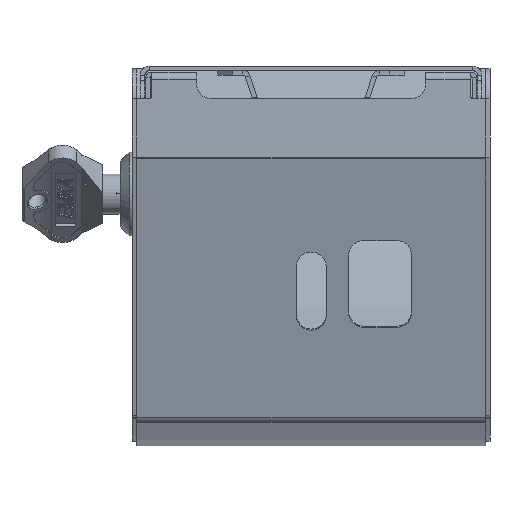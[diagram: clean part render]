
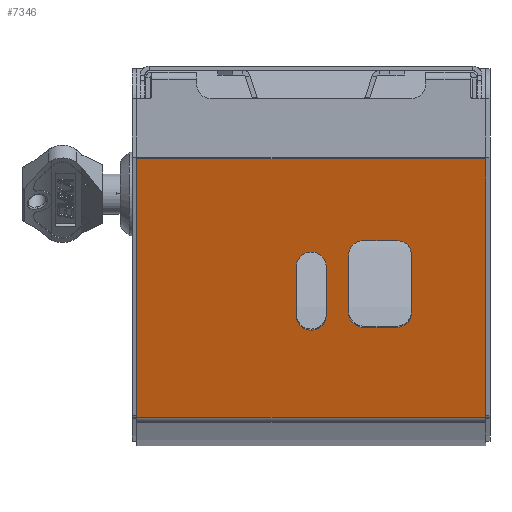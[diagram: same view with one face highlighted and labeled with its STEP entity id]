
A CAD part, front view. The second image highlights one B-rep face of the part: STEP entity #7346.
In plain terms, the highlighted planar face has unit normal (0, -0.966, -0.259) as drawn and (-0.259, -0.966, 0) by its records, which use the part's own axes.
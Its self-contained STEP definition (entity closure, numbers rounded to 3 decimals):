
#5118=CARTESIAN_POINT('',(-9.647,-159.831,-5.05));
#5119=VERTEX_POINT('',#5118);
#5126=CARTESIAN_POINT('',(6.774,-164.231,-5.05));
#5127=VERTEX_POINT('',#5126);
#5128=CARTESIAN_POINT('',(6.774,-164.231,-5.05));
#5129=DIRECTION('',(-0.966,0.259,0.));
#5130=VECTOR('',#5129,17.);
#5131=LINE('',#5128,#5130);
#5132=EDGE_CURVE('',#5127,#5119,#5131,.T.);
#5158=CARTESIAN_POINT('',(6.774,-164.231,4.95));
#5159=VERTEX_POINT('',#5158);
#5166=CARTESIAN_POINT('',(-9.647,-159.831,4.95));
#5167=VERTEX_POINT('',#5166);
#5168=CARTESIAN_POINT('',(-9.647,-159.831,4.95));
#5169=DIRECTION('',(0.966,-0.259,0.));
#5170=VECTOR('',#5169,17.);
#5171=LINE('',#5168,#5170);
#5172=EDGE_CURVE('',#5167,#5159,#5171,.T.);
#5189=CARTESIAN_POINT('',(6.774,-164.231,-0.05));
#5190=DIRECTION('',(0.259,0.966,0.));
#5191=DIRECTION('',(-0.966,0.259,0.));
#5192=AXIS2_PLACEMENT_3D('',#5189,#5190,#5191);
#5193=CIRCLE('',#5192,5.0);
#5194=EDGE_CURVE('',#5159,#5127,#5193,.T.);
#5213=CARTESIAN_POINT('',(-9.647,-159.831,-0.05));
#5214=DIRECTION('',(0.259,0.966,0.));
#5215=DIRECTION('',(-0.966,0.259,0.));
#5216=AXIS2_PLACEMENT_3D('',#5213,#5214,#5215);
#5217=CIRCLE('',#5216,5.0);
#5218=EDGE_CURVE('',#5119,#5167,#5217,.T.);
#5247=CARTESIAN_POINT('',(-8.681,-160.09,-12.55));
#5248=VERTEX_POINT('',#5247);
#5255=CARTESIAN_POINT('',(-13.51,-158.795,-17.55));
#5256=VERTEX_POINT('',#5255);
#5257=CARTESIAN_POINT('',(-8.681,-160.09,-17.55));
#5258=DIRECTION('',(0.259,0.966,0.0));
#5259=DIRECTION('',(0.0,0.0,1.0));
#5260=AXIS2_PLACEMENT_3D('',#5257,#5258,#5259);
#5261=CIRCLE('',#5260,5.0);
#5262=EDGE_CURVE('',#5256,#5248,#5261,.T.);
#5287=CARTESIAN_POINT('',(-13.51,-158.795,-28.55));
#5288=VERTEX_POINT('',#5287);
#5289=CARTESIAN_POINT('',(-13.51,-158.795,-28.55));
#5290=DIRECTION('',(0.0,0.0,1.0));
#5291=VECTOR('',#5290,11.);
#5292=LINE('',#5289,#5291);
#5293=EDGE_CURVE('',#5288,#5256,#5292,.T.);
#5319=CARTESIAN_POINT('',(-8.681,-160.09,-33.55));
#5320=VERTEX_POINT('',#5319);
#5321=CARTESIAN_POINT('',(-8.681,-160.09,-28.55));
#5322=DIRECTION('',(0.259,0.966,0.));
#5323=DIRECTION('',(-0.966,0.259,0.));
#5324=AXIS2_PLACEMENT_3D('',#5321,#5322,#5323);
#5325=CIRCLE('',#5324,5.0);
#5326=EDGE_CURVE('',#5320,#5288,#5325,.T.);
#5351=CARTESIAN_POINT('',(10.638,-165.266,-33.55));
#5352=VERTEX_POINT('',#5351);
#5353=CARTESIAN_POINT('',(10.638,-165.266,-33.55));
#5354=DIRECTION('',(-0.966,0.259,0.0));
#5355=VECTOR('',#5354,20.);
#5356=LINE('',#5353,#5355);
#5357=EDGE_CURVE('',#5352,#5320,#5356,.T.);
#5383=CARTESIAN_POINT('',(15.467,-166.56,-28.55));
#5384=VERTEX_POINT('',#5383);
#5385=CARTESIAN_POINT('',(10.638,-165.266,-28.55));
#5386=DIRECTION('',(0.259,0.966,0.0));
#5387=DIRECTION('',(0.0,0.0,-1.0));
#5388=AXIS2_PLACEMENT_3D('',#5385,#5386,#5387);
#5389=CIRCLE('',#5388,5.0);
#5390=EDGE_CURVE('',#5384,#5352,#5389,.T.);
#5415=CARTESIAN_POINT('',(15.467,-166.56,-17.55));
#5416=VERTEX_POINT('',#5415);
#5417=CARTESIAN_POINT('',(15.467,-166.56,-17.55));
#5418=DIRECTION('',(0.0,0.0,-1.0));
#5419=VECTOR('',#5418,11.0);
#5420=LINE('',#5417,#5419);
#5421=EDGE_CURVE('',#5416,#5384,#5420,.T.);
#5447=CARTESIAN_POINT('',(10.638,-165.266,-12.55));
#5448=VERTEX_POINT('',#5447);
#5449=CARTESIAN_POINT('',(10.638,-165.266,-17.55));
#5450=DIRECTION('',(0.259,0.966,0.));
#5451=DIRECTION('',(0.966,-0.259,0.));
#5452=AXIS2_PLACEMENT_3D('',#5449,#5450,#5451);
#5453=CIRCLE('',#5452,5.0);
#5454=EDGE_CURVE('',#5448,#5416,#5453,.T.);
#5477=CARTESIAN_POINT('',(-8.681,-160.09,-12.55));
#5478=DIRECTION('',(0.966,-0.259,0.));
#5479=VECTOR('',#5478,20.);
#5480=LINE('',#5477,#5479);
#5481=EDGE_CURVE('',#5248,#5448,#5480,.T.);
#7256=CARTESIAN_POINT('',(-43.477,-150.766,58.25));
#7257=VERTEX_POINT('',#7256);
#7293=CARTESIAN_POINT('',(-167.498,-117.535,0.));
#7294=DIRECTION('',(0.259,0.966,0.));
#7295=DIRECTION('',(0.0,0.0,1.0));
#7296=AXIS2_PLACEMENT_3D('',#7293,#7294,#7295);
#7297=PLANE('',#7296);
#7298=CARTESIAN_POINT('',(-43.477,-150.766,-58.25));
#7299=VERTEX_POINT('',#7298);
#7300=CARTESIAN_POINT('',(-43.477,-150.766,-58.25));
#7301=DIRECTION('',(0.0,0.0,1.0));
#7302=VECTOR('',#7301,116.5);
#7303=LINE('',#7300,#7302);
#7304=EDGE_CURVE('',#7299,#7257,#7303,.T.);
#7305=ORIENTED_EDGE('',*,*,#7304,.F.);
#7306=CARTESIAN_POINT('',(42.7,-173.857,-58.25));
#7307=VERTEX_POINT('',#7306);
#7308=CARTESIAN_POINT('',(42.7,-173.857,-58.25));
#7309=DIRECTION('',(-0.966,0.259,0.0));
#7310=VECTOR('',#7309,89.217);
#7311=LINE('',#7308,#7310);
#7312=EDGE_CURVE('',#7307,#7299,#7311,.T.);
#7313=ORIENTED_EDGE('',*,*,#7312,.F.);
#7314=CARTESIAN_POINT('',(42.7,-173.857,58.25));
#7315=VERTEX_POINT('',#7314);
#7316=CARTESIAN_POINT('',(42.7,-173.857,-58.25));
#7317=DIRECTION('',(0.0,0.0,1.0));
#7318=VECTOR('',#7317,116.5);
#7319=LINE('',#7316,#7318);
#7320=EDGE_CURVE('',#7307,#7315,#7319,.T.);
#7321=ORIENTED_EDGE('',*,*,#7320,.T.);
#7322=CARTESIAN_POINT('',(-43.477,-150.766,58.25));
#7323=DIRECTION('',(0.966,-0.259,0.0));
#7324=VECTOR('',#7323,89.217);
#7325=LINE('',#7322,#7324);
#7326=EDGE_CURVE('',#7257,#7315,#7325,.T.);
#7327=ORIENTED_EDGE('',*,*,#7326,.F.);
#7328=EDGE_LOOP('',(#7305,#7313,#7321,#7327));
#7329=FACE_OUTER_BOUND('',#7328,.T.);
#7330=ORIENTED_EDGE('',*,*,#5172,.T.);
#7331=ORIENTED_EDGE('',*,*,#5194,.T.);
#7332=ORIENTED_EDGE('',*,*,#5132,.T.);
#7333=ORIENTED_EDGE('',*,*,#5218,.T.);
#7334=EDGE_LOOP('',(#7330,#7331,#7332,#7333));
#7335=FACE_BOUND('',#7334,.T.);
#7336=ORIENTED_EDGE('',*,*,#5262,.T.);
#7337=ORIENTED_EDGE('',*,*,#5481,.T.);
#7338=ORIENTED_EDGE('',*,*,#5454,.T.);
#7339=ORIENTED_EDGE('',*,*,#5421,.T.);
#7340=ORIENTED_EDGE('',*,*,#5390,.T.);
#7341=ORIENTED_EDGE('',*,*,#5357,.T.);
#7342=ORIENTED_EDGE('',*,*,#5326,.T.);
#7343=ORIENTED_EDGE('',*,*,#5293,.T.);
#7344=EDGE_LOOP('',(#7336,#7337,#7338,#7339,#7340,#7341,#7342,#7343));
#7345=FACE_BOUND('',#7344,.T.);
#7346=ADVANCED_FACE('',(#7329,#7335,#7345),#7297,.F.);
